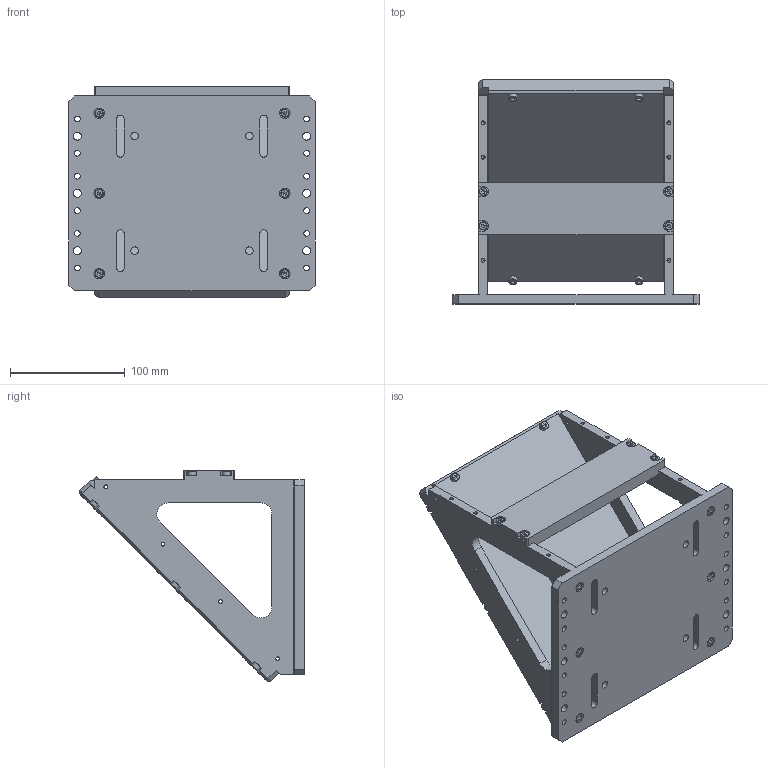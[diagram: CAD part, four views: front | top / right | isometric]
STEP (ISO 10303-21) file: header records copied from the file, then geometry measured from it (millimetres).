
FILE_DESCRIPTION (( 'STEP AP203' ), '1' );
FILE_NAME ('3d_mtl-pl150_a001.STEP', '2017-05-24T07:40:44', ( '' ), ( '' ), 'SwSTEP 2.0', 'SolidWorks 2014', '' );
FILE_SCHEMA (( 'CONFIG_CONTROL_DESIGN' ));
Length unit declared in the file: millimetre
Products named in the file (1): 3d_mtl-pl150_a001
Bounding box: 215 x 195.56 x 183.56 mm (x, y, z)
Volume: 1031614.3 mm3; surface area: 248253.4 mm2
Topology: 1 solids, 49 shells, 765 faces, 1846 edges, 1174 vertices
Faces by surface type: plane 475, cylinder 168, cone 82, torus 40
Full cylindrical faces by diameter (mm): 3 x6, 3.3 x34, 4 x20, 4.5 x20, 5 x12, 6.6 x4, 7 x26, 9 x6
Entity records: 20103 total; most frequent: CARTESIAN_POINT 3574, DIRECTION 3508, ORIENTED_EDGE 2912, EDGE_CURVE 1456, AXIS2_PLACEMENT_3D 1296, EDGE_LOOP 1126, VERTEX_POINT 1026, FACE_OUTER_BOUND 933
